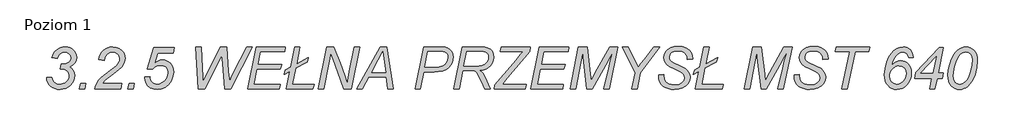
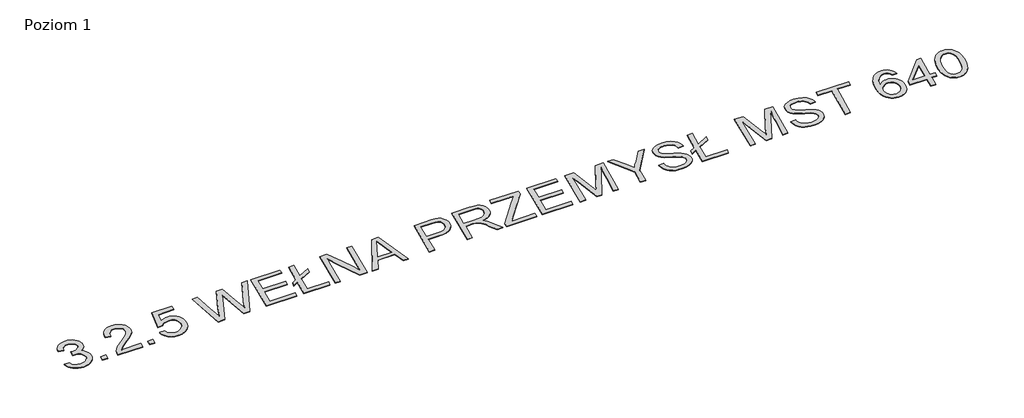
# One storey, part 2 of 2: 1 proxy.
"""IFC4 building model written with IfcOpenShell, lengths in millimetres."""

import ifcopenshell
import ifcopenshell.guid

model = None  # the IFC model being written
_history = None  # IfcOwnerHistory: only IFC2X3 demands one
_inside = {}  # id of a spatial element -> (the spatial element, [elements in it])
_under = {}  # id of a project, library or spatial element -> (it, [spatial elements below it])
_declared = {}  # id of a project -> (the project, [libraries it declares])
_typed = {}  # id of a type object -> (the type object, [elements of that type])
_made_of = {}  # id of a material, layer set ... -> (it, [elements and type objects made of it])


def new_model(schema):
    """Start an empty IFC model of exactly this schema.

    Asked for "IFC4X3", IfcOpenShell would pick the latest addendum, in which some entities
    have other attributes; the version numbers below select the first issue.
    IFC2X3 requires an IfcOwnerHistory on every rooted entity: one is made here for all.
    """
    global model, _history
    if schema == "IFC4X3":
        model = ifcopenshell.file(schema_version=(4, 3, 0, 0))
    else:
        model = ifcopenshell.file(schema=schema)
    _inside.clear()
    _under.clear()
    _declared.clear()
    _typed.clear()
    _made_of.clear()
    _history = None
    if model.schema == "IFC2X3":
        org = make("IfcOrganization", Name="unknown")
        user = make(
            "IfcPersonAndOrganization",
            ThePerson=make("IfcPerson", FamilyName="unknown"),
            TheOrganization=org,
        )
        app = make(
            "IfcApplication",
            ApplicationDeveloper=org,
            Version="unknown",
            ApplicationFullName="unknown",
            ApplicationIdentifier="unknown",
        )
        _history = make(
            "IfcOwnerHistory",
            OwningUser=user,
            OwningApplication=app,
            ChangeAction="ADDED",
            CreationDate=0,
        )
    return model


def make(cls, **values):
    """One entity of the class cls with the attributes given. An attribute that is None is left unset."""
    return model.create_entity(
        cls, **{name: value for name, value in values.items() if value is not None}
    )


def rooted(cls, **values):
    """An entity with a GlobalId (a new one), such as an element, a storey or a relation."""
    return make(cls, GlobalId=ifcopenshell.guid.new(), OwnerHistory=_history, **values)


def si_unit(unit_type, name, prefix=None):
    """IfcSIUnit, for example si_unit("LENGTHUNIT", "METRE", prefix="MILLI")."""
    return make("IfcSIUnit", UnitType=unit_type, Prefix=prefix, Name=name)


def assignment(units):
    """IfcUnitAssignment: the units of a project."""
    return None if units is None else make("IfcUnitAssignment", Units=units)


def point(xyz):
    """IfcCartesianPoint."""
    return None if xyz is None else make("IfcCartesianPoint", Coordinates=xyz)


def direction(xyz):
    """IfcDirection."""
    return None if xyz is None else make("IfcDirection", DirectionRatios=xyz)


def frame(location, z_axis=None, x_axis=None):
    """IfcAxis2Placement3D, a coordinate frame: its origin and axes. An axis left out is left unset."""
    return make(
        "IfcAxis2Placement3D",
        Location=point(location),
        Axis=direction(z_axis),
        RefDirection=direction(x_axis),
    )


def origin():
    """The frame at (0, 0, 0) with its axes left unset."""
    return frame((0.0, 0.0, 0.0))


def origin_with_axes():
    """The frame at (0, 0, 0) with the z axis (0, 0, 1) and the x axis (1, 0, 0) written out."""
    return frame((0.0, 0.0, 0.0), z_axis=(0.0, 0.0, 1.0), x_axis=(1.0, 0.0, 0.0))


def place(relative_to, where):
    """IfcLocalPlacement: puts the frame where relative to a parent placement (None: the world)."""
    return make(
        "IfcLocalPlacement", PlacementRelTo=relative_to, RelativePlacement=where
    )


def context(
    kind, dimensions, precision=None, world=None, true_north=None, identifier=None
):
    """IfcGeometricRepresentationContext, for example the 3D "Model" context."""
    return make(
        "IfcGeometricRepresentationContext",
        ContextIdentifier=identifier,
        ContextType=kind,
        CoordinateSpaceDimension=dimensions,
        Precision=precision,
        WorldCoordinateSystem=world,
        TrueNorth=true_north,
    )


def project(units=None, contexts=None):
    """IfcProject with its units and contexts."""
    return rooted(
        "IfcProject",
        Name="project",
        RepresentationContexts=contexts,
        UnitsInContext=assignment(units),
    )


def spatial(cls, under=None, at=None, **own):
    """A site, building, storey or space (cls), placed at a placement, below another one or the project."""
    s = rooted(cls, ObjectPlacement=at, **own)
    if under is not None:
        _under.setdefault(under.id(), (under, []))[1].append(s)
    return s


def polyline(points):
    """IfcPolyline through the points."""
    return make("IfcPolyline", Points=[point(p) for p in points])


def outline(outer, holes=None, kind="AREA"):
    """IfcArbitraryClosedProfileDef: a profile drawn as a closed curve; with holes, ...WithVoids."""
    if holes is None:
        return make("IfcArbitraryClosedProfileDef", ProfileType=kind, OuterCurve=outer)
    return make(
        "IfcArbitraryProfileDefWithVoids",
        ProfileType=kind,
        OuterCurve=outer,
        InnerCurves=holes,
    )


def extrude(swept, where, along, depth):
    """IfcExtrudedAreaSolid: the profile swept, set in the frame where, extruded along a direction by depth."""
    return make(
        "IfcExtrudedAreaSolid",
        SweptArea=swept,
        Position=where,
        ExtrudedDirection=direction(along),
        Depth=depth,
    )


def shape(context_of_items, identifier, shape_type, items):
    """IfcShapeRepresentation: the items that make up one representation, for example the "Body"."""
    return make(
        "IfcShapeRepresentation",
        ContextOfItems=context_of_items,
        RepresentationIdentifier=identifier,
        RepresentationType=shape_type,
        Items=items,
    )


def made_of(thing, what):
    """Note that an element or type object is made of a material, layer set ...; save() writes the relation."""
    if what is not None:
        _made_of.setdefault(what.id(), (what, []))[1].append(thing)
    return thing


def element(
    cls,
    number,
    at=None,
    inside=None,
    cuts=None,
    type_object=None,
    material=None,
    context=None,
    identifier="Body",
    shape_type=None,
    held_by="IfcProductDefinitionShape",
    body=None,
    shapes=None,
    **own,
):
    """One element of the class cls, such as IfcWall. Its Tag is "e" and its number.

    at: its placement. inside: the storey or other place that contains it. cuts: it is an
    opening in that element (IfcRelVoidsElement). A single representation is given by context,
    identifier, shape_type and body (its items); several are given by shapes. held_by: the class
    of the entity that holds the representations. save() writes the other relations.
    """
    e = rooted(cls, Tag="e%d" % number, ObjectPlacement=at, **own)
    if body is not None:
        shapes = [shape(context, identifier, shape_type, body)]
    if shapes is not None:
        e.Representation = make(held_by, Representations=shapes)
    if inside is not None:
        _inside.setdefault(inside.id(), (inside, []))[1].append(e)
    if cuts is not None:
        rooted(
            "IfcRelVoidsElement", RelatingBuildingElement=cuts, RelatedOpeningElement=e
        )
    if type_object is not None:
        _typed.setdefault(type_object.id(), (type_object, []))[1].append(e)
    return made_of(e, material)


def aggregate(whole, parts):
    """IfcRelAggregates: a whole, such as a stair, and the parts it consists of."""
    return rooted("IfcRelAggregates", RelatingObject=whole, RelatedObjects=parts)


def save(model, path):
    """Write the relations noted so far, then the file.

    IfcRelAggregates (storeys below a building ...), IfcRelContainedInSpatialStructure (elements
    in a storey), IfcRelDefinesByType, IfcRelAssociatesMaterial and IfcRelDeclares: one each for
    every whole, place, type object, material and project.
    """
    for whole, parts in _under.values():
        aggregate(whole, parts)
    for where, things in _inside.values():
        rooted(
            "IfcRelContainedInSpatialStructure",
            RelatedElements=things,
            RelatingStructure=where,
        )
    for kind, things in _typed.values():
        rooted("IfcRelDefinesByType", RelatedObjects=things, RelatingType=kind)
    for what, things in _made_of.values():
        rooted("IfcRelAssociatesMaterial", RelatedObjects=things, RelatingMaterial=what)
    for by, libraries in _declared.values():
        rooted("IfcRelDeclares", RelatingContext=by, RelatedDefinitions=libraries)
    model.write(path)


model = new_model("IFC4")

# Units and contexts
model_context = context("Model", 3, world=origin())
ifc_project = project(units=[si_unit("LENGTHUNIT", "METRE", prefix="MILLI")], contexts=[model_context])

# Site, building, storey
site = spatial("IfcSite", under=ifc_project)
building = spatial("IfcBuilding", under=site)
storey = spatial("IfcBuildingStorey", under=building, Name="Poziom 1", Elevation=0.0)

# Proxy
placement = place(None, origin())
element("IfcBuildingElementProxy", 1, Name="400 mm Arial", ObjectType="400 mm Arial", at=placement, inside=storey, context=model_context, shape_type="SweptSolid", body=[
    extrude(outline(polyline([(40935.3811978, 3434.5109693), (40984.3508948, 3434.5109693), (40993.2457811, 3406.3557846), (41008.8357432, 3387.501973), (41030.7382054, 3376.8496293), (41058.5705917, 3373.298848), (41093.1458758, 3379.2765943), (41108.5325946, 3386.748777), (41122.6520311, 3397.2098329), (41134.4521021, 3409.6017008), (41142.8807243, 3422.8663196), (41147.9378976, 3437.0036894), (41149.623622, 3452.0138102), (41144.7696921, 3476.6301691), (41130.2079023, 3496.536064), (41107.4685557, 3509.6990611), (41078.0819554, 3514.0867268), (41062.6832811, 3514.0867268), (41070.9086599, 3563.9172193), (41084.2031675, 3563.0564238), (41120.440265, 3567.2169352), (41146.7064819, 3579.6984693), (41162.6670643, 3598.2294825), (41167.9872584, 3620.5384314), (41163.4680823, 3641.0540564), (41149.9105539, 3658.0308556), (41129.8014156, 3669.4363954), (41105.6274099, 3673.238242), (41081.3577603, 3669.3527069), (41059.6226751, 3657.6961018), (41042.8132527, 3638.9379342), (41033.3205917, 3613.7477117), (40984.3508948, 3621.6861587), (40991.5929343, 3644.3328502), (41001.5548484, 3664.2596672), (41014.2366369, 3681.4666096), (41029.6383001, 3695.9536776), (41047.1680408, 3707.4399169), (41066.2340624, 3715.6443736), (41086.8363647, 3720.5670476), (41108.9749478, 3722.207939), (41131.9324821, 3720.4564593), (41152.6005396, 3715.2020204), (41170.9791204, 3706.4446222), (41187.0682243, 3694.1842647), (41200.1445441, 3679.3714096), (41209.4847726, 3662.9565185), (41215.0889097, 3644.9395914), (41216.9569554, 3625.3206283), (41212.9996874, 3597.3806426), (41201.1278834, 3573.2425033), (41181.1980775, 3552.9062107), (41153.0668039, 3536.3717647), (41173.1042092, 3520.961135), (41187.3073342, 3502.6572761), (41195.7718228, 3481.484099), (41198.593319, 3457.4655147), (41196.0617435, 3431.3905857), (41188.4670169, 3407.1089806), (41175.8091393, 3384.6206994), (41158.0881107, 3363.925742), (41136.8461895, 3346.6022335), (41113.6256343, 3334.2282988), (41088.4264452, 3326.803938), (41061.248622, 3324.3291511), (41035.2095595, 3326.2061634), (41011.8007054, 3331.8372003), (40991.0220595, 3341.2222619), (40972.873622, 3354.361348), (40957.9053455, 3370.6327732), (40946.6671826, 3389.4148518), (40939.1591334, 3410.7075838), (40935.3811978, 3434.5109693)])), origin_with_axes(), (0.0, 0.0, 1.0), 5.0),
    extrude(outline(polyline([(41242.2069554, 3330.4503632), (41253.6842281, 3379.4200602), (41302.6539251, 3379.4200602), (41292.1330917, 3330.4503632), (41242.2069554, 3330.4503632)])), origin_with_axes(), (0.0, 0.0, 1.0), 5.0),
    extrude(outline(polyline([(41388.3508948, 3330.4503632), (41397.4729355, 3362.7062818), (41409.5360273, 3389.2713859), (41425.2933664, 3412.3813528), (41445.4981485, 3434.2718594), (41531.8168039, 3502.8963859), (41584.8991902, 3545.1710071), (41602.569408, 3564.7062818), (41614.6444554, 3583.9068026), (41619.3788304, 3597.392598), (41620.9569554, 3612.0261208), (41616.067159, 3635.6382183), (41601.3977698, 3655.4006473), (41579.6029071, 3668.7788433), (41553.3366902, 3673.238242), (41526.9748294, 3668.7190658), (41504.1278834, 3655.1615374), (41486.0631343, 3631.6092174), (41474.0478645, 3597.1056662), (41425.0781675, 3603.6094541), (41430.3236398, 3629.6963386), (41438.9824052, 3652.8660829), (41451.0544637, 3673.1186871), (41466.5398152, 3690.4541511), (41484.7868855, 3704.3464333), (41505.1441003, 3714.269492), (41527.6114594, 3720.2233272), (41552.1889629, 3722.207939), (41584.8155018, 3718.6810687), (41614.2140576, 3708.1004579), (41638.5434847, 3691.1475696), (41655.9626372, 3668.503867), (41666.4356485, 3642.5963149), (41669.9266523, 3615.8518783), (41668.1572395, 3596.238893), (41662.8490008, 3576.996528), (41654.0019364, 3558.1247832), (41641.6160463, 3539.6236587), (41607.327694, 3508.0611587), (41539.2770311, 3455.8395677), (41484.9990955, 3411.8433556), (41458.1709705, 3379.4200602), (41639.3205917, 3379.4200602), (41629.6605539, 3330.4503632), (41388.3508948, 3330.4503632)])), origin_with_axes(), (0.0, 0.0, 1.0), 5.0),
    extrude(outline(polyline([(41695.1766523, 3330.4503632), (41706.6539251, 3379.4200602), (41755.623622, 3379.4200602), (41745.1027887, 3330.4503632), (41695.1766523, 3330.4503632)])), origin_with_axes(), (0.0, 0.0, 1.0), 5.0),
    extrude(outline(polyline([(41853.8499478, 3440.6321814), (41903.1065766, 3440.6321814), (41902.5327129, 3430.6852117), (41904.8759895, 3416.6614191), (41911.905819, 3402.5180715), (41922.9646495, 3389.9887155), (41937.3949289, 3380.8068973), (41953.9532859, 3375.1758604), (41971.3963493, 3373.298848), (41995.1399573, 3376.8854958), (42019.3139629, 3387.645439), (42041.383802, 3405.2678348), (42058.8149099, 3429.4418405), (42070.1487167, 3456.7481852), (42073.9266523, 3483.767598), (42068.8575235, 3511.1576312), (42053.6501372, 3532.4981852), (42030.1695501, 3546.235046), (42000.280819, 3550.8139996), (41978.7728881, 3548.3392126), (41958.4365955, 3540.9148518), (41941.136998, 3529.2582467), (41928.7391523, 3514.0867268), (41878.0478645, 3514.0867268), (41938.1122584, 3716.0867268), (42131.6955917, 3716.0867268), (42122.3224857, 3667.1170299), (41974.2656675, 3667.1170299), (41945.6681296, 3571.0905147), (41962.9318607, 3583.6437818), (41980.6738114, 3592.6104011), (41998.8939819, 3597.9903727), (42017.592372, 3599.7836965), (42039.5725449, 3597.912662), (42059.5083285, 3592.2995583), (42077.3997229, 3582.9443855), (42093.2467281, 3569.8471435), (42106.2184374, 3553.5039854), (42115.483944, 3534.411064), (42121.043248, 3512.5683793), (42122.8963493, 3487.9759314), (42117.7793985, 3444.1590516), (42102.4285463, 3403.9527306), (42078.1230302, 3369.9991321), (42046.1420879, 3344.94042), (42008.92464, 3329.4819683), (41968.9096069, 3324.3291511), (41936.0200472, 3328.0592647), (41907.171444, 3339.2496056), (41883.7028124, 3356.9915564), (41866.9531675, 3380.3764996), (41856.9105539, 3406.582939), (41853.563016, 3432.7893783), (41853.8499478, 3440.6321814)])), origin_with_axes(), (0.0, 0.0, 1.0), 5.0),
    extrude(outline(polyline([(42355.5024099, 3330.4503632), (42331.0175614, 3722.207939), (42379.9872584, 3722.207939), (42391.1775993, 3527.0943026), (42395.4815766, 3452.205098), (42396.8205917, 3428.1984693), (42401.4115008, 3397.7836965), (42446.842372, 3497.3490374), (42561.6150993, 3722.207939), (42618.7145311, 3722.207939), (42636.0260842, 3492.5668405), (42646.2599857, 3397.7836965), (42661.7543039, 3435.3717647), (42692.3603645, 3496.392598), (42805.9853645, 3722.207939), (42860.5024099, 3722.207939), (42656.5895311, 3330.4503632), (42600.3508948, 3330.4503632), (42581.7959705, 3566.7865374), (42572.8054402, 3642.6321814), (42546.8859326, 3585.6283935), (42416.4275993, 3330.4503632), (42355.5024099, 3330.4503632)])), origin_with_axes(), (0.0, 0.0, 1.0), 5.0),
    extrude(outline(polyline([(42814.593319, 3330.4503632), (42894.1690766, 3722.207939), (43169.623622, 3722.207939), (43163.406766, 3679.3594541), (42935.2003266, 3679.3594541), (42910.3329023, 3556.9352117), (43132.8963493, 3556.9352117), (43120.6539251, 3514.0867268), (42901.6293039, 3514.0867268), (42873.031766, 3373.298848), (43118.5497584, 3373.298848), (43109.3679402, 3330.4503632), (42814.593319, 3330.4503632)])), origin_with_axes(), (0.0, 0.0, 1.0), 5.0),
    extrude(outline(polyline([(43208.7419932, 3493.0450602), (43157.3811978, 3465.1170299), (43169.623622, 3507.9655147), (43217.063016, 3533.7893783), (43255.3205917, 3722.207939), (43305.0554402, 3722.207939), (43272.9190766, 3564.0128632), (43383.8660463, 3624.268545), (43371.623622, 3581.4200602), (43264.6936978, 3523.364189), (43234.1832811, 3373.298848), (43438.9569554, 3373.298848), (43426.7145311, 3330.4503632), (43175.7448342, 3330.4503632), (43208.7419932, 3493.0450602)])), origin_with_axes(), (0.0, 0.0, 1.0), 5.0),
    extrude(outline(polyline([(43475.6842281, 3330.4503632), (43555.2599857, 3722.207939), (43622.593319, 3722.207939), (43681.8925614, 3570.612295), (43724.9323342, 3453.831045), (43746.0696448, 3379.4200602), (43767.6851751, 3490.5583177), (43812.7334705, 3722.207939), (43862.3726751, 3722.207939), (43786.2400993, 3330.4503632), (43713.9332811, 3330.4503632), (43632.9228645, 3555.5005526), (43593.4219175, 3665.0128632), (43573.8149099, 3568.3168405), (43525.4190766, 3330.4503632), (43475.6842281, 3330.4503632)])), origin_with_axes(), (0.0, 0.0, 1.0), 5.0),
    extrude(outline(polyline([(43834.6359326, 3330.4503632), (44053.8518417, 3722.207939), (44115.8291145, 3722.207939), (44177.5194554, 3330.4503632), (44128.0715387, 3330.4503632), (44112.3859326, 3440.6321814), (43949.313016, 3440.6321814), (43889.5355539, 3330.4503632), (43834.6359326, 3330.4503632)]), holes=[polyline([(43974.6586599, 3483.4806662), (44106.3603645, 3483.4806662), (44092.5876372, 3581.4200602), (44078.623622, 3679.3594541), (44035.4882054, 3599.7836965), (43974.6586599, 3483.4806662)])]), origin_with_axes(), (0.0, 0.0, 1.0), 5.0),
    extrude(outline(polyline([(44381.623622, 3330.4503632), (44460.8168039, 3722.207939), (44624.0810084, 3722.207939), (44661.1669459, 3719.7690185), (44687.6842281, 3712.4522571), (44707.0760368, 3699.2294825), (44722.7855539, 3679.0725223), (44733.1868323, 3654.0138102), (44736.6539251, 3626.0857799), (44734.1791381, 3601.5889759), (44726.7547773, 3576.6856852), (44715.5524809, 3553.7789617), (44701.7438872, 3535.2718594), (44686.5365008, 3520.9730905), (44671.1378266, 3510.691367), (44637.9493796, 3498.4011208), (44600.0504686, 3491.801689), (44561.7211599, 3489.6018783), (44463.5904781, 3489.6018783), (44431.4541145, 3330.4503632), (44381.623622, 3330.4503632)]), holes=[polyline([(44472.2940766, 3532.4503632), (44560.2865008, 3532.4503632), (44604.6533332, 3535.1762155), (44635.4148152, 3543.3537723), (44656.9227461, 3557.1145441), (44673.5289251, 3576.5900412), (44684.1454023, 3599.6043641), (44687.6842281, 3623.9816132), (44685.7713493, 3641.5322761), (44680.0327129, 3655.5441132), (44670.8030728, 3666.172546), (44658.4171826, 3673.5729958), (44638.0450235, 3677.9128395), (44604.8565766, 3679.3594541), (44502.0393417, 3679.3594541), (44472.2940766, 3532.4503632)])]), origin_with_axes(), (0.0, 0.0, 1.0), 5.0),
    extrude(outline(polyline([(44742.7751372, 3330.4503632), (44822.3508948, 3722.207939), (44987.8149099, 3722.207939), (45030.8666381, 3720.1276833), (45062.0824289, 3713.8869162), (45084.6543985, 3701.9075128), (45101.7746637, 3682.611348), (45112.5704734, 3656.6679295), (45116.1690766, 3624.7467647), (45114.2322868, 3601.349866), (45108.4219175, 3580.033223), (45098.7379686, 3560.7968357), (45085.1804402, 3543.6407041), (45067.3010013, 3528.9414262), (45044.6513209, 3517.0755999), (45017.231399, 3508.0432254), (44985.0412357, 3501.8443026), (45003.7635368, 3487.5216227), (45017.2732432, 3473.4380526), (45036.4259421, 3438.2171719), (45051.4181296, 3401.800742), (45085.467372, 3330.4503632), (45032.0024099, 3330.4503632), (44997.7618796, 3402.1833177), (44982.6262262, 3438.5758367), (44965.529872, 3469.707939), (44951.9364771, 3486.0989191), (44937.7453076, 3495.6752685), (44918.7480302, 3500.3020441), (44890.7363114, 3501.8443026), (44827.3243796, 3501.8443026), (44792.5099857, 3330.4503632), (44742.7751372, 3330.4503632)]), holes=[polyline([(44836.0279781, 3544.6927874), (44911.1084705, 3544.6927874), (44978.9200235, 3544.6927874), (45005.879659, 3549.6662723), (45027.4593228, 3558.4655147), (45044.2328787, 3571.0307373), (45056.7741902, 3587.3021624), (45064.5930823, 3606.108152), (45067.1993796, 3626.2770677), (45065.2147679, 3642.7397808), (45059.2609326, 3656.9309503), (45050.0791145, 3667.8941369), (45038.4105539, 3674.6729011), (45020.9794459, 3678.1878158), (44994.5099857, 3679.3594541), (44863.3821448, 3679.3594541), (44836.0279781, 3544.6927874)])]), origin_with_axes(), (0.0, 0.0, 1.0), 5.0),
    extrude(outline(polyline([(45122.2902887, 3330.4503632), (45128.4115008, 3367.1776359), (45325.2467281, 3601.5052874), (45366.1823342, 3649.9967647), (45390.7628266, 3679.3594541), (45355.6615008, 3679.3594541), (45342.6539251, 3679.3594541), (45326.968319, 3679.3594541), (45311.5696448, 3679.3594541), (45178.3376372, 3679.3594541), (45187.6150993, 3722.207939), (45458.9569554, 3722.207939), (45453.8878266, 3681.176689), (45243.375516, 3430.6852117), (45195.1709705, 3373.298848), (45210.0914251, 3373.298848), (45419.7429402, 3373.298848), (45410.4654781, 3330.4503632), (45122.2902887, 3330.4503632)])), origin_with_axes(), (0.0, 0.0, 1.0), 5.0),
    extrude(outline(polyline([(45465.0781675, 3330.4503632), (45544.6539251, 3722.207939), (45820.1084705, 3722.207939), (45813.8916145, 3679.3594541), (45585.6851751, 3679.3594541), (45560.8177508, 3556.9352117), (45783.3811978, 3556.9352117), (45771.1387735, 3514.0867268), (45552.1141523, 3514.0867268), (45523.5166145, 3373.298848), (45769.0346069, 3373.298848), (45759.8527887, 3330.4503632), (45465.0781675, 3330.4503632)])), origin_with_axes(), (0.0, 0.0, 1.0), 5.0),
    extrude(outline(polyline([(45831.6813872, 3330.4503632), (45908.1008948, 3722.207939), (45991.5980539, 3722.207939), (46021.2476751, 3468.9427874), (46028.0383948, 3404.7657041), (46067.9219175, 3482.8111587), (46200.3887735, 3722.207939), (46277.8603645, 3722.207939), (46194.7457811, 3330.4503632), (46144.5327129, 3330.4503632), (46190.5374478, 3518.6776359), (46205.7209232, 3590.6975223), (46231.3774099, 3673.238242), (46204.0710652, 3630.7484219), (46180.686122, 3587.2543405), (46038.4635842, 3330.4503632), (45988.250516, 3330.4503632), (45958.8878266, 3581.611348), (45948.1757054, 3673.238242), (45929.812069, 3578.8376738), (45881.3205917, 3330.4503632), (45831.6813872, 3330.4503632)])), origin_with_axes(), (0.0, 0.0, 1.0), 5.0),
    extrude(outline(polyline([(46407.7448342, 3330.4503632), (46438.1596069, 3480.4200602), (46319.8480539, 3722.207939), (46373.4086599, 3722.207939), (46430.7950235, 3609.1568026), (46467.5222963, 3529.9636208), (46490.6442186, 3565.973564), (46523.4740008, 3604.7571814), (46611.3707811, 3722.207939), (46670.5743796, 3722.207939), (46487.0336599, 3476.4986587), (46457.4796826, 3330.4503632), (46407.7448342, 3330.4503632)])), origin_with_axes(), (0.0, 0.0, 1.0), 5.0),
    extrude(outline(polyline([(46658.7145311, 3458.9958177), (46707.6842281, 3465.1170299), (46707.1103645, 3450.9617268), (46709.6927508, 3428.5093121), (46717.4399099, 3408.017598), (46731.1409042, 3390.7180005), (46751.5847963, 3377.8419352), (46777.6238588, 3369.8437107), (46808.1103645, 3367.1776359), (46849.15357, 3372.3424087), (46865.523628, 3378.7983746), (46879.1259895, 3387.8367268), (46897.4537593, 3409.9543878), (46903.563016, 3434.989189), (46900.358944, 3452.6594068), (46890.7467281, 3468.7514996), (46866.4531675, 3486.3499844), (46819.5876372, 3509.3045299), (46757.9929402, 3539.9105905), (46735.5644364, 3557.987295), (46719.9266523, 3577.5943026), (46710.7448342, 3599.4250318), (46707.6842281, 3624.1729011), (46711.6654071, 3652.770439), (46723.608944, 3678.4986587), (46743.2159516, 3699.9109456), (46770.1875425, 3715.5606852), (46802.8140813, 3725.1370346), (46839.3859326, 3728.3291511), (46881.7801088, 3724.2284172), (46916.9531675, 3711.9262155), (46944.1877792, 3692.7854721), (46962.7666145, 3668.1691132), (46973.4548247, 3641.4366321), (46977.0175614, 3615.9475223), (46977.0175614, 3607.7221435), (46928.0478645, 3603.6094541), (46925.2741902, 3630.676689), (46918.7106249, 3646.4459835), (46909.3494743, 3659.5133367), (46896.5810084, 3670.081992), (46879.795497, 3678.3551927), (46859.8896021, 3683.6992979), (46837.7599857, 3685.4806662), (46801.3674667, 3680.6506473), (46786.5785226, 3674.6131236), (46774.061122, 3666.1605905), (46761.0057243, 3649.0164143), (46756.6539251, 3627.0422193), (46758.4592044, 3613.3651359), (46763.8750425, 3601.2183556), (46774.0013446, 3589.9323708), (46789.938016, 3578.8376738), (46853.5412357, 3548.1359693), (46909.779872, 3518.8689238), (46927.9761315, 3503.2311397), (46941.438016, 3484.6283935), (46949.7590387, 3463.1563291), (46952.5327129, 3438.9105905), (46947.8222489, 3408.4599513), (46933.6908569, 3380.4243215), (46911.2503976, 3356.6448471), (46881.6127319, 3338.9626738), (46845.973409, 3327.9875318), (46805.5279781, 3324.3291511), (46774.6439523, 3326.1583414), (46746.7428218, 3331.6459124), (46721.8245868, 3340.7918641), (46699.889247, 3353.5961965), (46681.9829083, 3371.1588149), (46669.151676, 3394.5796246), (46661.3955503, 3423.8586255), (46658.7145311, 3458.9958177)])), origin_with_axes(), (0.0, 0.0, 1.0), 5.0),
    extrude(outline(polyline([(47034.499569, 3493.0450602), (46983.1387735, 3465.1170299), (46995.3811978, 3507.9655147), (47042.8205917, 3533.7893783), (47081.0781675, 3722.207939), (47130.813016, 3722.207939), (47098.6766523, 3564.0128632), (47209.623622, 3624.268545), (47197.3811978, 3581.4200602), (47090.4512735, 3523.364189), (47059.9408569, 3373.298848), (47264.7145311, 3373.298848), (47252.4721069, 3330.4503632), (47001.5024099, 3330.4503632), (47034.499569, 3493.0450602)])), origin_with_axes(), (0.0, 0.0, 1.0), 5.0),
    extrude(outline(polyline([(47459.9238114, 3330.4503632), (47536.343319, 3722.207939), (47619.8404781, 3722.207939), (47649.4900993, 3468.9427874), (47656.280819, 3404.7657041), (47696.1643417, 3482.8111587), (47828.6311978, 3722.207939), (47906.1027887, 3722.207939), (47822.9882054, 3330.4503632), (47772.7751372, 3330.4503632), (47818.779872, 3518.6776359), (47833.9633474, 3590.6975223), (47859.6198342, 3673.238242), (47832.3134895, 3630.7484219), (47808.9285463, 3587.2543405), (47666.7060084, 3330.4503632), (47616.4929402, 3330.4503632), (47587.1302508, 3581.611348), (47576.4181296, 3673.238242), (47558.0544932, 3578.8376738), (47509.563016, 3330.4503632), (47459.9238114, 3330.4503632)])), origin_with_axes(), (0.0, 0.0, 1.0), 5.0),
    extrude(outline(polyline([(47925.8054402, 3458.9958177), (47974.7751372, 3465.1170299), (47974.2012735, 3450.9617268), (47976.7836599, 3428.5093121), (47984.530819, 3408.017598), (47998.2318133, 3390.7180005), (48018.6757054, 3377.8419352), (48044.7147679, 3369.8437107), (48075.2012735, 3367.1776359), (48116.244479, 3372.3424087), (48132.614537, 3378.7983746), (48146.2168985, 3387.8367268), (48164.5446684, 3409.9543878), (48170.6539251, 3434.989189), (48167.4498531, 3452.6594068), (48157.8376372, 3468.7514996), (48133.5440766, 3486.3499844), (48086.6785463, 3509.3045299), (48025.0838493, 3539.9105905), (48002.6553455, 3557.987295), (47987.0175614, 3577.5943026), (47977.8357432, 3599.4250318), (47974.7751372, 3624.1729011), (47978.7563162, 3652.770439), (47990.6998531, 3678.4986587), (48010.3068607, 3699.9109456), (48037.2784516, 3715.5606852), (48069.9049904, 3725.1370346), (48106.4768417, 3728.3291511), (48148.8710179, 3724.2284172), (48184.0440766, 3711.9262155), (48211.2786883, 3692.7854721), (48229.8575235, 3668.1691132), (48240.5457338, 3641.4366321), (48244.1084705, 3615.9475223), (48244.1084705, 3607.7221435), (48195.1387735, 3603.6094541), (48192.3650993, 3630.676689), (48185.801534, 3646.4459835), (48176.4403834, 3659.5133367), (48163.6719175, 3670.081992), (48146.8864061, 3678.3551927), (48126.9805112, 3683.6992979), (48104.8508948, 3685.4806662), (48068.4583758, 3680.6506473), (48053.6694317, 3674.6131236), (48041.1520311, 3666.1605905), (48028.0966334, 3649.0164143), (48023.7448342, 3627.0422193), (48025.5501135, 3613.3651359), (48030.9659516, 3601.2183556), (48041.0922537, 3589.9323708), (48057.0289251, 3578.8376738), (48120.6321448, 3548.1359693), (48176.8707811, 3518.8689238), (48195.0670406, 3503.2311397), (48208.5289251, 3484.6283935), (48216.8499478, 3463.1563291), (48219.623622, 3438.9105905), (48214.913158, 3408.4599513), (48200.781766, 3380.4243215), (48178.3413067, 3356.6448471), (48148.703641, 3338.9626738), (48113.0643181, 3327.9875318), (48072.6188872, 3324.3291511), (48041.7348614, 3326.1583414), (48013.8337309, 3331.6459124), (47988.9154959, 3340.7918641), (47966.9801561, 3353.5961965), (47949.0738173, 3371.1588149), (47936.2425851, 3394.5796246), (47928.4864594, 3423.8586255), (47925.8054402, 3458.9958177)])), origin_with_axes(), (0.0, 0.0, 1.0), 5.0),
    extrude(outline(polyline([(48372.6539251, 3330.4503632), (48446.7779781, 3679.3594541), (48311.4418039, 3679.3594541), (48320.719266, 3722.207939), (48632.8054402, 3722.207939), (48623.5279781, 3679.3594541), (48496.6084705, 3679.3594541), (48422.4844175, 3330.4503632), (48372.6539251, 3330.4503632)])), origin_with_axes(), (0.0, 0.0, 1.0), 5.0),
    extrude(outline(polyline([(48836.2400993, 3551.1009314), (48856.7557243, 3569.7514996), (48877.1757054, 3583.0460071), (48897.4522205, 3591.0083651), (48917.5374478, 3593.6624844), (48939.0872229, 3591.7466167), (48958.6882527, 3585.9990138), (48976.3405373, 3576.4196755), (48992.0440766, 3563.0086018), (49004.9320974, 3546.351612), (49014.1378266, 3527.0345251), (49019.6612641, 3505.0573412), (49021.5024099, 3480.4200602), (49018.7586244, 3448.0924087), (49010.5272679, 3418.1558556), (48996.8083403, 3390.6104011), (48977.6018417, 3365.456045), (48957.6481249, 3347.4630289), (48935.6619743, 3334.6108746), (48911.64339, 3326.8995819), (48885.592372, 3324.3291511), (48861.9862522, 3326.5468949), (48840.4245217, 3333.2001265), (48820.9071803, 3344.2888457), (48803.4342281, 3359.8130526), (48789.0398152, 3379.4379934), (48778.7580917, 3402.8289143), (48772.5890576, 3429.9858154), (48770.5327129, 3460.9086965), (48775.8170406, 3520.6383367), (48791.6700235, 3582.3764996), (48809.938016, 3626.2651123), (48832.031766, 3661.7131473), (48856.7915908, 3688.7923376), (48883.0578076, 3707.5744162), (48911.8107669, 3718.5495583), (48944.030819, 3722.207939), (48963.4674608, 3720.6238362), (48981.0330681, 3715.871528), (48996.7276407, 3707.9510142), (49010.5511789, 3696.862295), (49022.0493737, 3682.8205692), (49030.7679165, 3666.0410355), (49036.7068074, 3646.5236942), (49039.8660463, 3624.268545), (48995.2003266, 3624.268545), (48988.6845832, 3646.5894494), (48976.7888682, 3661.7131473), (48960.613087, 3670.3569683), (48941.2571448, 3673.238242), (48919.0916618, 3669.1494636), (48896.7827129, 3656.8831283), (48875.9801561, 3636.5946577), (48858.3338493, 3608.439473), (48844.7763209, 3578.0605668), (48836.2400993, 3551.1009314)]), holes=[polyline([(48819.5024099, 3443.7884314), (48824.6074052, 3416.3266653), (48839.922391, 3393.6231852), (48861.6694317, 3378.3799323), (48886.0705917, 3373.298848), (48904.6613825, 3376.3953206), (48924.2803455, 3385.6847382), (48942.8950472, 3401.2986113), (48958.4730539, 3423.3684503), (48969.0177982, 3448.6064948), (48972.5327129, 3473.7249844), (48967.654872, 3502.7409645), (48953.0213493, 3525.3248897), (48931.5014629, 3539.850813), (48905.9645311, 3544.6927874), (48890.3237582, 3542.9263634), (48875.2508711, 3537.6270914), (48846.8087546, 3516.4300033), (48834.8622288, 3501.2913611), (48826.3289961, 3484.1382183), (48821.2090565, 3464.9705751), (48819.5024099, 3443.7884314)])]), origin_with_axes(), (0.0, 0.0, 1.0), 5.0),
    extrude(outline(polyline([(49192.8963493, 3330.4503632), (49212.6946448, 3428.3897571), (49052.1084705, 3428.3897571), (49064.3508948, 3482.1416511), (49284.7145311, 3716.0867268), (49320.5810084, 3716.0867268), (49272.280819, 3477.3594541), (49321.4418039, 3477.3594541), (49309.1993796, 3428.3897571), (49262.4294932, 3428.3897571), (49242.6311978, 3330.4503632), (49192.8963493, 3330.4503632)]), holes=[polyline([(49222.5459705, 3477.3594541), (49253.8215387, 3632.206992), (49107.9645311, 3477.3594541), (49222.5459705, 3477.3594541)])]), origin_with_axes(), (0.0, 0.0, 1.0), 5.0),
    extrude(outline(polyline([(49364.2902887, 3458.8045299), (49368.0682243, 3508.6469778), (49379.4020311, 3559.2784882), (49395.350658, 3605.1875791), (49412.9730539, 3640.8627685), (49431.7790434, 3668.0973802), (49451.2784516, 3688.6847382), (49470.9571921, 3703.6649702), (49490.3011789, 3714.0782041), (49510.5418275, 3720.1755052), (49532.9105539, 3722.207939), (49554.7831272, 3720.1306721), (49574.7786883, 3713.8988717), (49592.8972371, 3703.5125377), (49609.1387735, 3688.97167), (49622.5289251, 3670.5094008), (49632.093319, 3648.3588623), (49637.8319554, 3622.5200542), (49639.7448342, 3592.9929768), (49634.4365955, 3528.7680715), (49618.5118796, 3465.2126738), (49604.7989298, 3430.0635261), (49588.6231485, 3399.6009314), (49569.9845359, 3373.8248897), (49548.8830917, 3352.7354011), (49531.165052, 3340.3076667), (49512.2514629, 3331.4307136), (49492.1423247, 3326.1045417), (49470.8376372, 3324.3291511), (49449.2848732, 3326.4811397), (49429.4835889, 3332.9371056), (49411.4337842, 3343.6970488), (49395.1354592, 3358.7609693), (49381.6406971, 3377.9256236), (49372.0015813, 3400.9877685), (49366.2181119, 3427.9474039), (49364.2902887, 3458.8045299)]), holes=[polyline([(49413.2599857, 3451.7268783), (49416.2488588, 3421.9098802), (49425.2154781, 3399.4096435), (49434.3315411, 3387.9861705), (49445.4202603, 3379.8265469), (49458.4816358, 3374.9307728), (49473.5156675, 3373.298848), (49500.2003266, 3379.2048613), (49524.3982432, 3396.9229011), (49539.9164724, 3415.4569032), (49553.3783569, 3437.8704626), (49564.7838967, 3464.1635793), (49574.1330917, 3494.3362533), (49586.6146258, 3552.6671009), (49590.7751372, 3599.2098329), (49586.7461362, 3633.031921), (49574.6591334, 3655.878867), (49555.9726987, 3668.8983982), (49532.1454023, 3673.238242), (49513.5665671, 3670.9427874), (49496.2789251, 3664.0564238), (49479.9955444, 3651.5748897), (49464.4294932, 3632.4939238), (49444.224711, 3593.1842647), (49426.8414251, 3538.1889996), (49416.6553455, 3489.7453443), (49413.2599857, 3451.7268783)])]), origin_with_axes(), (0.0, 0.0, 1.0), 5.0),
])

save(model, "model.ifc")
